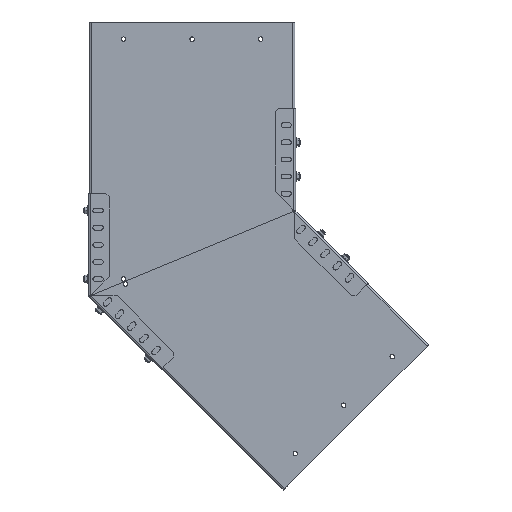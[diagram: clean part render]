
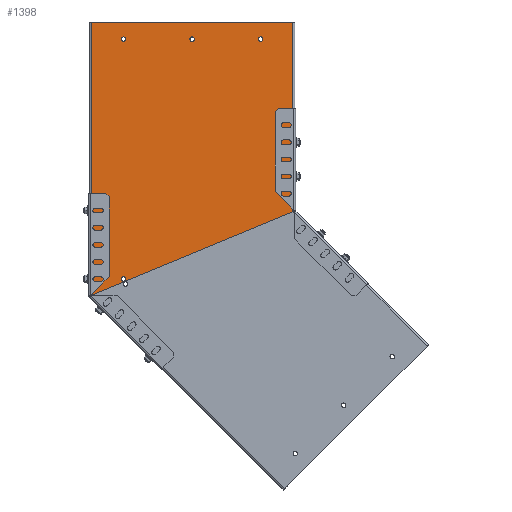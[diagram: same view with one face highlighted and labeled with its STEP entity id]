
A CAD part, front view. The second image highlights one B-rep face of the part: STEP entity #1398.
In plain terms, the highlighted planar face has unit normal (0, -1, 0).
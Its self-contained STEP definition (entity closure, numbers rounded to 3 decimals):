
#157 = VERTEX_POINT ( 'NONE', #593 ) ;
#593 = CARTESIAN_POINT ( 'NONE',  ( 96.75, 0., 175. ) ) ;
#678 = ORIENTED_EDGE ( 'NONE', *, *, #10986, .T. ) ;
#1353 = EDGE_LOOP ( 'NONE', ( #18595, #7025 ) ) ;
#1398 = ADVANCED_FACE ( 'NONE', ( #24913, #24888, #24798, #24753, #24726 ), #6496, .T. ) ;
#1597 = CARTESIAN_POINT ( 'NONE',  ( 3.25, 0., 175. ) ) ;
#2072 = VERTEX_POINT ( 'NONE', #9473 ) ;
#2095 = AXIS2_PLACEMENT_3D ( 'NONE', #23942, #23793, #23693 ) ;
#2434 = VERTEX_POINT ( 'NONE', #27687 ) ;
#2682 = VERTEX_POINT ( 'NONE', #17284 ) ;
#3037 = ORIENTED_EDGE ( 'NONE', *, *, #10393, .F. ) ;
#3178 = DIRECTION ( 'NONE',  ( 1., 0., 0. ) ) ;
#3345 = DIRECTION ( 'NONE',  ( 0., -1., 0. ) ) ;
#3836 = CARTESIAN_POINT ( 'NONE',  ( 100., 0., 175. ) ) ;
#4020 = VERTEX_POINT ( 'NONE', #9667 ) ;
#4425 = VECTOR ( 'NONE', #23091, 1000. ) ;
#4454 = CIRCLE ( 'NONE', #5924, 3.25 ) ;
#4468 = VECTOR ( 'NONE', #10803, 1000. ) ;
#4476 = VERTEX_POINT ( 'NONE', #5702 ) ;
#4498 = LINE ( 'NONE', #23484, #4425 ) ;
#4519 = CARTESIAN_POINT ( 'NONE',  ( -150., 0., -200. ) ) ;
#4557 = VECTOR ( 'NONE', #10752, 1000. ) ;
#4588 = LINE ( 'NONE', #4519, #4557 ) ;
#4618 = VECTOR ( 'NONE', #28622, 1000. ) ;
#4630 = CARTESIAN_POINT ( 'NONE',  ( -103.25, 0., 175. ) ) ;
#4648 = LINE ( 'NONE', #10524, #4618 ) ;
#4682 = LINE ( 'NONE', #25939, #4468 ) ;
#4920 = DIRECTION ( 'NONE',  ( 1., 0., 0. ) ) ;
#5702 = CARTESIAN_POINT ( 'NONE',  ( 147., 0., 200. ) ) ;
#5924 = AXIS2_PLACEMENT_3D ( 'NONE', #20769, #20704, #20573 ) ;
#6006 = EDGE_CURVE ( 'NONE', #4020, #2072, #19913, .T. ) ;
#6127 = EDGE_CURVE ( 'NONE', #157, #28142, #19506, .T. ) ;
#6171 = DIRECTION ( 'NONE',  ( 1., 0., 0. ) ) ;
#6224 = EDGE_CURVE ( 'NONE', #8510, #16087, #19243, .T. ) ;
#6303 = AXIS2_PLACEMENT_3D ( 'NONE', #23514, #23421, #23185 ) ;
#6327 = CARTESIAN_POINT ( 'NONE',  ( 150., 0., 200. ) ) ;
#6407 = DIRECTION ( 'NONE',  ( 1., 0., 0. ) ) ;
#6443 = CIRCLE ( 'NONE', #6303, 3.25 ) ;
#6480 = EDGE_CURVE ( 'NONE', #2682, #7712, #18488, .T. ) ;
#6496 = PLANE ( 'NONE',  #16174 ) ;
#6508 = CIRCLE ( 'NONE', #2095, 3.25 ) ;
#6545 = DIRECTION ( 'NONE',  ( 0., -1., 0. ) ) ;
#6695 = DIRECTION ( 'NONE',  ( 0., -1., 0. ) ) ;
#6720 = DIRECTION ( 'NONE',  ( 1., 0., 0. ) ) ;
#6875 = CARTESIAN_POINT ( 'NONE',  ( -100., 0., -175. ) ) ;
#7025 = ORIENTED_EDGE ( 'NONE', *, *, #10390, .F. ) ;
#7487 = AXIS2_PLACEMENT_3D ( 'NONE', #3836, #3345, #3178 ) ;
#7712 = VERTEX_POINT ( 'NONE', #1597 ) ;
#7765 = CARTESIAN_POINT ( 'NONE',  ( 100., 0., 175. ) ) ;
#7835 = EDGE_LOOP ( 'NONE', ( #10198, #28327 ) ) ;
#8486 = AXIS2_PLACEMENT_3D ( 'NONE', #19823, #19716, #19520 ) ;
#8495 = EDGE_CURVE ( 'NONE', #28142, #157, #13003, .T. ) ;
#8510 = VERTEX_POINT ( 'NONE', #4630 ) ;
#8806 = AXIS2_PLACEMENT_3D ( 'NONE', #18005, #20228, #4920 ) ;
#8827 = ORIENTED_EDGE ( 'NONE', *, *, #6006, .T. ) ;
#8851 = AXIS2_PLACEMENT_3D ( 'NONE', #7765, #6545, #6407 ) ;
#9017 = AXIS2_PLACEMENT_3D ( 'NONE', #6875, #18311, #6171 ) ;
#9473 = CARTESIAN_POINT ( 'NONE',  ( -103.25, 0., -175. ) ) ;
#9667 = CARTESIAN_POINT ( 'NONE',  ( -96.75, 0., -175. ) ) ;
#9762 = ORIENTED_EDGE ( 'NONE', *, *, #11028, .T. ) ;
#10198 = ORIENTED_EDGE ( 'NONE', *, *, #6127, .F. ) ;
#10390 = EDGE_CURVE ( 'NONE', #7712, #2682, #6508, .T. ) ;
#10393 = EDGE_CURVE ( 'NONE', #16087, #8510, #6443, .T. ) ;
#10524 = CARTESIAN_POINT ( 'NONE',  ( 147., 0., 200. ) ) ;
#10752 = DIRECTION ( 'NONE',  ( 0.924, 0., 0.383 ) ) ;
#10803 = DIRECTION ( 'NONE',  ( -1., 0., 0. ) ) ;
#10986 = EDGE_CURVE ( 'NONE', #2434, #27442, #4588, .T. ) ;
#10992 = EDGE_CURVE ( 'NONE', #4476, #27442, #4648, .T. ) ;
#10998 = EDGE_CURVE ( 'NONE', #4476, #16372, #4682, .T. ) ;
#11025 = EDGE_CURVE ( 'NONE', #16372, #2434, #4498, .T. ) ;
#11028 = EDGE_CURVE ( 'NONE', #2072, #4020, #4454, .T. ) ;
#13003 = CIRCLE ( 'NONE', #7487, 3.25 ) ;
#15804 = ORIENTED_EDGE ( 'NONE', *, *, #6224, .F. ) ;
#16087 = VERTEX_POINT ( 'NONE', #24532 ) ;
#16174 = AXIS2_PLACEMENT_3D ( 'NONE', #6327, #6695, #6720 ) ;
#16372 = VERTEX_POINT ( 'NONE', #18696 ) ;
#16759 = ORIENTED_EDGE ( 'NONE', *, *, #10998, .T. ) ;
#17284 = CARTESIAN_POINT ( 'NONE',  ( -3.25, 0., 175. ) ) ;
#18005 = CARTESIAN_POINT ( 'NONE',  ( -100., 0., 175. ) ) ;
#18286 = EDGE_LOOP ( 'NONE', ( #678, #20341, #16759, #21979 ) ) ;
#18311 = DIRECTION ( 'NONE',  ( 0., 1., 0. ) ) ;
#18488 = CIRCLE ( 'NONE', #8486, 3.25 ) ;
#18595 = ORIENTED_EDGE ( 'NONE', *, *, #6480, .F. ) ;
#18696 = CARTESIAN_POINT ( 'NONE',  ( -147., 0., 200. ) ) ;
#19243 = CIRCLE ( 'NONE', #8806, 3.25 ) ;
#19506 = CIRCLE ( 'NONE', #8851, 3.25 ) ;
#19520 = DIRECTION ( 'NONE',  ( 1., 0., 0. ) ) ;
#19716 = DIRECTION ( 'NONE',  ( 0., -1., 0. ) ) ;
#19823 = CARTESIAN_POINT ( 'NONE',  ( 0., 0., 175. ) ) ;
#19913 = CIRCLE ( 'NONE', #9017, 3.25 ) ;
#20228 = DIRECTION ( 'NONE',  ( 0., -1., 0. ) ) ;
#20341 = ORIENTED_EDGE ( 'NONE', *, *, #10992, .F. ) ;
#20573 = DIRECTION ( 'NONE',  ( 1., 0., 0. ) ) ;
#20704 = DIRECTION ( 'NONE',  ( 0., 1., 0. ) ) ;
#20751 = EDGE_LOOP ( 'NONE', ( #15804, #3037 ) ) ;
#20769 = CARTESIAN_POINT ( 'NONE',  ( -100., 0., -175. ) ) ;
#21979 = ORIENTED_EDGE ( 'NONE', *, *, #11025, .T. ) ;
#23091 = DIRECTION ( 'NONE',  ( 0., 0., -1. ) ) ;
#23185 = DIRECTION ( 'NONE',  ( 1., 0., 0. ) ) ;
#23421 = DIRECTION ( 'NONE',  ( 0., -1., 0. ) ) ;
#23484 = CARTESIAN_POINT ( 'NONE',  ( -147., 0., 200. ) ) ;
#23514 = CARTESIAN_POINT ( 'NONE',  ( -100., 0., 175. ) ) ;
#23693 = DIRECTION ( 'NONE',  ( 1., 0., 0. ) ) ;
#23793 = DIRECTION ( 'NONE',  ( 0., -1., 0. ) ) ;
#23942 = CARTESIAN_POINT ( 'NONE',  ( 0., 0., 175. ) ) ;
#24532 = CARTESIAN_POINT ( 'NONE',  ( -96.75, 0., 175. ) ) ;
#24726 = FACE_BOUND ( 'NONE', #7835, .T. ) ;
#24753 = FACE_BOUND ( 'NONE', #20751, .T. ) ;
#24798 = FACE_BOUND ( 'NONE', #1353, .T. ) ;
#24888 = FACE_BOUND ( 'NONE', #25495, .T. ) ;
#24913 = FACE_OUTER_BOUND ( 'NONE', #18286, .T. ) ;
#25495 = EDGE_LOOP ( 'NONE', ( #9762, #8827 ) ) ;
#25939 = CARTESIAN_POINT ( 'NONE',  ( 0., 0., 200. ) ) ;
#27372 = CARTESIAN_POINT ( 'NONE',  ( 103.25, 0., 175. ) ) ;
#27442 = VERTEX_POINT ( 'NONE', #28451 ) ;
#27687 = CARTESIAN_POINT ( 'NONE',  ( -147., 0., -198.757 ) ) ;
#28142 = VERTEX_POINT ( 'NONE', #27372 ) ;
#28327 = ORIENTED_EDGE ( 'NONE', *, *, #8495, .F. ) ;
#28451 = CARTESIAN_POINT ( 'NONE',  ( 147., 0., -76.979 ) ) ;
#28622 = DIRECTION ( 'NONE',  ( 0., 0., -1. ) ) ;
